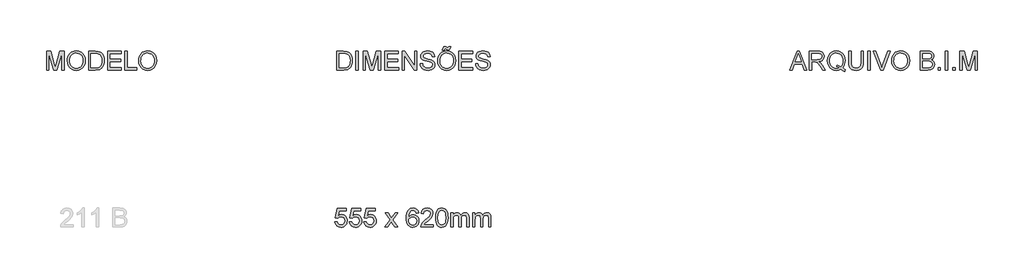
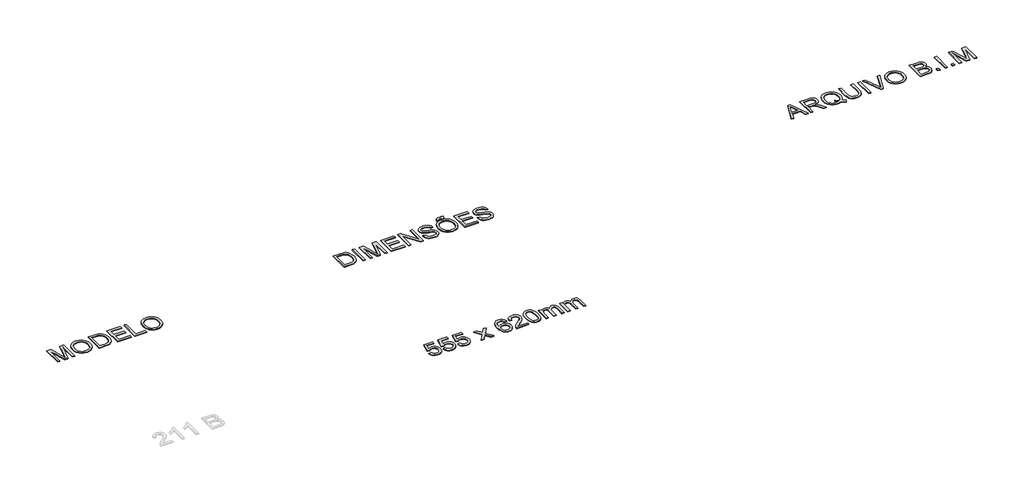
# One storey, part 33 of 35: 4 proxies.
"""IFC4 building model written with IfcOpenShell, lengths in millimetres."""

from ifc_helpers import new_model, si_unit, origin, origin_with_axes, place, context, project, spatial, polyline, outline, extrude, element, save

model = new_model("IFC4")

# Units and contexts
model_context = context("Model", 3, world=origin())
ifc_project = project(units=[si_unit("LENGTHUNIT", "METRE", prefix="MILLI")], contexts=[model_context])

# Site, building, storey
site = spatial("IfcSite", under=ifc_project)
building = spatial("IfcBuilding", under=site)
storey = spatial("IfcBuildingStorey", under=building, Name="Marelli - Linha YOU - Planta Baixa", Elevation=0.0)

# Proxies
placement = place(None, origin())
element("IfcBuildingElementProxy", 1, Name="300mm Arial", ObjectType="300mm Arial", at=placement, inside=storey, context=model_context, shape_type="SweptSolid", body=[
    extrude(outline(polyline([(-25315.334731, 13719.4336799), (-25315.334731, 14020.8026104), (-25211.3712792, 14020.8026104), (-25157.5869315, 14016.4616028), (-25133.5642372, 14008.0922874), (-25113.2939393, 13994.9037179), (-25092.4534243, 13971.9478814), (-25077.6093858, 13943.4002386), (-25068.7250356, 13909.8126124), (-25065.7635855, 13871.7368259), (-25067.7685424, 13839.3908015), (-25073.783413, 13810.9259321), (-25082.9436747, 13786.6917057), (-25094.3848047, 13767.0376101), (-25107.5549802, 13751.522187), (-25121.902378, 13739.7039779), (-25138.3742943, 13730.9391893), (-25157.9180253, 13724.5840279), (-25206.3680841, 13719.4336799), (-25315.334731, 13719.4336799)]), holes=[polyline([(-25277.6636147, 13757.1047962), (-25211.0033972, 13757.1047962), (-25183.4306417, 13758.4659596), (-25162.5165502, 13762.5494498), (-25146.7344127, 13769.1161434), (-25134.5575186, 13777.9269172), (-25121.4701166, 13794.2332866), (-25111.6384703, 13815.3405161), (-25105.4856439, 13841.3405761), (-25103.4347018, 13872.3254371), (-25107.4538126, 13913.3810678), (-25119.511145, 13943.6945442), (-25137.3258306, 13964.5166651), (-25158.6170011, 13977.0982294), (-25180.2852506, 13981.6231779), (-25212.0334668, 13983.1314941), (-25277.6636147, 13983.1314941), (-25277.6636147, 13757.1047962)])]), origin_with_axes(), (0.0, 0.0, 1.0), 10.0),
    extrude(outline(polyline([(-25009.2569111, 13719.4336799), (-25009.2569111, 14020.8026104), (-24971.5857948, 14020.8026104), (-24971.5857948, 13719.4336799), (-25009.2569111, 13719.4336799)])), origin_with_axes(), (0.0, 0.0, 1.0), 10.0),
    extrude(outline(polyline([(-24896.2435621, 13719.4336799), (-24896.2435621, 14020.8026104), (-24831.4227546, 14020.8026104), (-24769.7657322, 13808.3875464), (-24757.3313208, 13764.0209777), (-24743.8668397, 13812.0663663), (-24683.2398869, 14020.8026104), (-24618.4190794, 14020.8026104), (-24618.4190794, 13719.4336799), (-24656.0901957, 13719.4336799), (-24656.0901957, 13983.1314941), (-24731.8003103, 13719.4336799), (-24782.8623312, 13719.4336799), (-24858.5724458, 13983.1314941), (-24858.5724458, 13719.4336799), (-24896.2435621, 13719.4336799)])), origin_with_axes(), (0.0, 0.0, 1.0), 10.0),
    extrude(outline(polyline([(-24552.4946258, 13719.4336799), (-24552.4946258, 14020.8026104), (-24335.8857071, 14020.8026104), (-24335.8857071, 13983.1314941), (-24514.8235095, 13983.1314941), (-24514.8235095, 13893.6625928), (-24345.3034862, 13893.6625928), (-24345.3034862, 13855.9914765), (-24514.8235095, 13855.9914765), (-24514.8235095, 13757.1047962), (-24331.1768175, 13757.1047962), (-24331.1768175, 13719.4336799), (-24552.4946258, 13719.4336799)])), origin_with_axes(), (0.0, 0.0, 1.0), 10.0),
    extrude(outline(polyline([(-24274.6701431, 13719.4336799), (-24274.6701431, 14020.8026104), (-24234.3502764, 14020.8026104), (-24076.8967825, 13782.0471955), (-24076.8967825, 14020.8026104), (-24039.2256662, 14020.8026104), (-24039.2256662, 13719.4336799), (-24079.5455328, 13719.4336799), (-24236.9990268, 13958.2626712), (-24236.9990268, 13719.4336799), (-24274.6701431, 13719.4336799)])), origin_with_axes(), (0.0, 0.0, 1.0), 10.0),
    extrude(outline(polyline([(-23987.4278813, 13823.0292498), (-23949.7567649, 13823.0292498), (-23945.4341515, 13802.1243554), (-23937.6166591, 13785.3213453), (-23925.421371, 13771.9856229), (-23907.9653703, 13761.482592), (-23886.6282146, 13754.667578), (-23862.7894613, 13752.3959067), (-23841.8017935, 13754.115755), (-23823.4260878, 13759.2753), (-23808.536064, 13767.4422803), (-23798.0054419, 13778.1844346), (-23791.742251, 13790.5176784), (-23789.6545206, 13803.4579276), (-23791.2180191, 13816.067083), (-23795.9085146, 13826.9655871), (-23805.4366582, 13836.2638046), (-23821.5131014, 13844.0720999), (-23876.3643069, 13858.4562859), (-23912.3707572, 13867.9752325), (-23935.4093671, 13877.0343267), (-23954.1621518, 13889.7078614), (-23967.4518889, 13905.0669347), (-23975.3705489, 13922.7804528), (-23978.0101022, 13942.5173218), (-23974.7451495, 13964.5810445), (-23964.9502913, 13985.154845), (-23948.8830452, 14002.5924516), (-23926.8009284, 14015.2475923), (-23900.2950307, 14022.945523), (-23870.9564416, 14025.5114999), (-23839.1714372, 14022.8259614), (-23811.3595584, 14014.7693457), (-23788.5140865, 14001.5071997), (-23771.6283029, 13983.2050705), (-23760.9413309, 13961.0033921), (-23756.6922939, 13936.0425987), (-23794.3634102, 13936.0425987), (-23801.2795917, 13958.5201886), (-23815.7005659, 13974.7437846), (-23838.2333381, 13984.5662339), (-23869.4849136, 13987.8403836), (-23901.4722531, 13984.6030221), (-23923.4164141, 13974.8909374), (-23936.1083429, 13960.5987219), (-23940.3389859, 13943.6209678), (-23937.3407476, 13929.1448113), (-23928.3460328, 13917.5013461), (-23907.0824535, 13907.0902857), (-23866.8361632, 13896.458496), (-23825.302286, 13886.3601352), (-23800.1759457, 13877.5493615), (-23778.7008342, 13863.8825453), (-23763.71884, 13847.0151559), (-23754.9172633, 13827.131134), (-23751.9834043, 13804.4144208), (-23755.3587216, 13781.1918699), (-23765.4846736, 13759.3488764), (-23781.9473928, 13740.5501065), (-23804.3330123, 13726.460226), (-23831.2527773, 13717.6586493), (-23861.3179333, 13714.7247904), (-23898.2256945, 13717.8885756), (-23928.6035502, 13727.379931), (-23952.8009885, 13743.235645), (-23971.1674971, 13765.4925057), (-23982.958115, 13792.6054088), (-23987.4278813, 13823.0292498)])), origin_with_axes(), (0.0, 0.0, 1.0), 10.0),
    extrude(outline(polyline([(-23709.6033985, 13866.1450196), (-23707.0926039, 13901.4938808), (-23699.56022, 13932.786843), (-23687.0062469, 13960.0239063), (-23669.4306846, 13983.2050705), (-23647.8865953, 14001.7141334), (-23623.4270411, 14014.9348926), (-23596.0520222, 14022.8673481), (-23565.7615384, 14025.5114999), (-23526.232618, 14020.545093), (-23490.7871878, 14005.6458722), (-23461.3566282, 13981.8623012), (-23439.8723196, 13950.2428437), (-23426.7389324, 13912.31421), (-23422.3611367, 13869.6031104), (-23426.9688587, 13826.3217936), (-23440.7920246, 13787.859731), (-23463.0672794, 13756.1850913), (-23493.0312679, 13733.266043), (-23528.1731955, 13719.3601035), (-23565.9822676, 13714.7247904), (-23606.1181933, 13719.8475472), (-23641.7659586, 13735.2158175), (-23671.1229418, 13759.4408469), (-23692.3865211, 13791.1338808), (-23705.2991792, 13827.6001836), (-23709.6033985, 13866.1450196)]), holes=[polyline([(-23671.9322822, 13865.7771376), (-23670.0491862, 13840.8025487), (-23664.3998983, 13818.6330599), (-23654.9844185, 13799.2686714), (-23641.8027468, 13782.7093831), (-23625.7791866, 13769.4472372), (-23607.8380416, 13759.9742758), (-23587.9793116, 13754.290499), (-23566.2029968, 13752.3959067), (-23544.0542014, 13754.3088931), (-23523.9609467, 13760.0478522), (-23505.9232326, 13769.6127841), (-23489.9410592, 13783.0036887), (-23476.8559565, 13799.9124649), (-23467.5094545, 13820.0310115), (-23461.9015534, 13843.3593285), (-23460.032253, 13869.897416), (-23463.2328263, 13903.2459188), (-23472.8345464, 13932.0694731), (-23488.5890928, 13955.641512), (-23510.2481453, 13973.2354684), (-23536.376964, 13984.1891548), (-23565.5408092, 13987.8403836), (-23586.5606667, 13986.0814478), (-23606.063011, 13980.8046405), (-23624.047842, 13972.0099615), (-23640.5151598, 13959.697411), (-23654.2601508, 13943.2737792), (-23664.0780016, 13922.1458563), (-23669.968712, 13896.3136425), (-23671.9322822, 13865.7771376)])]), origin_with_axes(), (0.0, 0.0, 1.0), 10.0),
    extrude(outline(polyline([(-23634.2611659, 14039.6381685), (-23631.4100804, 14062.7963401), (-23622.5625184, 14080.7673756), (-23609.2267961, 14092.3004761), (-23592.616924, 14096.144843), (-23578.7109846, 14093.1098165), (-23562.4506004, 14084.0047372), (-23547.2202858, 14077.3092848), (-23539.2372465, 14081.0984694), (-23535.3744856, 14096.144843), (-23502.4122588, 14096.144843), (-23505.6956056, 14071.4231729), (-23514.3684237, 14053.7648371), (-23527.2718846, 14043.1698357), (-23543.2471603, 14039.6381685), (-23557.2450702, 14042.5076481), (-23573.0456019, 14051.1160868), (-23588.9381041, 14058.4737267), (-23597.9144248, 14053.6912607), (-23601.2989391, 14039.6381685), (-23634.2611659, 14039.6381685)])), origin_with_axes(), (0.0, 0.0, 1.0), 10.0),
    extrude(outline(polyline([(-23370.5633517, 13719.4336799), (-23370.5633517, 14020.8026104), (-23153.954433, 14020.8026104), (-23153.954433, 13983.1314941), (-23332.8922354, 13983.1314941), (-23332.8922354, 13893.6625928), (-23163.3722121, 13893.6625928), (-23163.3722121, 13855.9914765), (-23332.8922354, 13855.9914765), (-23332.8922354, 13757.1047962), (-23149.2455434, 13757.1047962), (-23149.2455434, 13719.4336799), (-23370.5633517, 13719.4336799)])), origin_with_axes(), (0.0, 0.0, 1.0), 10.0),
    extrude(outline(polyline([(-23106.8655376, 13823.0292498), (-23069.1944213, 13823.0292498), (-23064.8718078, 13802.1243554), (-23057.0543155, 13785.3213453), (-23044.8590273, 13771.9856229), (-23027.4030266, 13761.482592), (-23006.0658709, 13754.667578), (-22982.2271176, 13752.3959067), (-22961.2394498, 13754.115755), (-22942.8637441, 13759.2753), (-22927.9737204, 13767.4422803), (-22917.4430983, 13778.1844346), (-22911.1799073, 13790.5176784), (-22909.092177, 13803.4579276), (-22910.6556755, 13816.067083), (-22915.3461709, 13826.9655871), (-22924.8743146, 13836.2638046), (-22940.9507578, 13844.0720999), (-22995.8019633, 13858.4562859), (-23031.8084135, 13867.9752325), (-23054.8470235, 13877.0343267), (-23073.5998082, 13889.7078614), (-23086.8895453, 13905.0669347), (-23094.8082052, 13922.7804528), (-23097.4477585, 13942.5173218), (-23094.1828058, 13964.5810445), (-23084.3879477, 13985.154845), (-23068.3207016, 14002.5924516), (-23046.2385848, 14015.2475923), (-23019.732687, 14022.945523), (-22990.3940979, 14025.5114999), (-22958.6090935, 14022.8259614), (-22930.7972147, 14014.7693457), (-22907.9517428, 14001.5071997), (-22891.0659592, 13983.2050705), (-22880.3789873, 13961.0033921), (-22876.1299502, 13936.0425987), (-22913.8010665, 13936.0425987), (-22920.717248, 13958.5201886), (-22935.1382223, 13974.7437846), (-22957.6709945, 13984.5662339), (-22988.9225699, 13987.8403836), (-23020.9099094, 13984.6030221), (-23042.8540704, 13974.8909374), (-23055.5459993, 13960.5987219), (-23059.7766422, 13943.6209678), (-23056.778404, 13929.1448113), (-23047.7836892, 13917.5013461), (-23026.5201099, 13907.0902857), (-22986.2738196, 13896.458496), (-22944.7399423, 13886.3601352), (-22919.6136021, 13877.5493615), (-22898.1384906, 13863.8825453), (-22883.1564963, 13847.0151559), (-22874.3549196, 13827.131134), (-22871.4210607, 13804.4144208), (-22874.796378, 13781.1918699), (-22884.9223299, 13759.3488764), (-22901.3850492, 13740.5501065), (-22923.7706686, 13726.460226), (-22950.6904336, 13717.6586493), (-22980.7555897, 13714.7247904), (-23017.6633508, 13717.8885756), (-23048.0412066, 13727.379931), (-23072.2386448, 13743.235645), (-23090.6051534, 13765.4925057), (-23102.3957714, 13792.6054088), (-23106.8655376, 13823.0292498)])), origin_with_axes(), (0.0, 0.0, 1.0), 10.0),
])
element("IfcBuildingElementProxy", 2, Name="300mm Arial", ObjectType="300mm Arial", at=placement, inside=storey, context=model_context, shape_type="SweptSolid", body=[
    extrude(outline(polyline([(-18109.419598, 13719.4336799), (-17989.1221856, 14020.8026104), (-17957.0428756, 14020.8026104), (-17836.7454632, 13719.4336799), (-17876.550295, 13719.4336799), (-17911.0576262, 13813.6114707), (-18035.1810114, 13813.6114707), (-18069.6147661, 13719.4336799), (-18109.419598, 13719.4336799)]), holes=[polyline([(-18021.3486483, 13851.282587), (-17924.8164128, 13851.282587), (-17951.9661041, 13925.3740208), (-17973.0825306, 13983.1314941), (-17991.8445123, 13931.8487439), (-18021.3486483, 13851.282587)])]), origin_with_axes(), (0.0, 0.0, 1.0), 10.0),
    extrude(outline(polyline([(-17796.4991729, 13719.4336799), (-17796.4991729, 14020.8026104), (-17666.6368286, 14020.8026104), (-17631.7340243, 14018.7700624), (-17606.3409696, 14012.6724183), (-17587.7813229, 14001.4152292), (-17573.3787428, 13983.9040463), (-17564.1357077, 13962.1898115), (-17561.054696, 13938.3234671), (-17566.1590587, 13908.6353901), (-17581.4721467, 13884.0240846), (-17593.0719259, 13873.9947017), (-17607.4538126, 13865.9794727), (-17644.5639089, 13855.9914765), (-17623.1531768, 13839.8782452), (-17592.6189712, 13801.1034829), (-17542.3662906, 13719.4336799), (-17586.144248, 13719.4336799), (-17625.3604687, 13781.9000427), (-17653.6873824, 13823.249979), (-17673.5897983, 13842.7845129), (-17691.5056515, 13849.9582118), (-17713.357842, 13851.282587), (-17758.8280566, 13851.282587), (-17758.8280566, 13719.4336799), (-17796.4991729, 13719.4336799)]), holes=[polyline([(-17758.8280566, 13888.9537033), (-17674.5095033, 13888.9537033), (-17650.293671, 13890.2872755), (-17631.5040981, 13894.2879922), (-17617.3590353, 13901.2225678), (-17607.0767336, 13911.3577168), (-17600.8135426, 13923.6173843), (-17598.7258123, 13936.9255155), (-17602.7081349, 13955.3012211), (-17614.6551027, 13970.1084714), (-17635.2105092, 13979.8757384), (-17665.0181478, 13983.1314941), (-17758.8280566, 13983.1314941), (-17758.8280566, 13888.9537033)])]), origin_with_axes(), (0.0, 0.0, 1.0), 10.0),
    extrude(outline(polyline([(-17268.7356626, 13755.5596919), (-17244.4002686, 13736.963257), (-17222.0146492, 13724.1425695), (-17232.1681923, 13696.5514198), (-17263.2358268, 13710.9539999), (-17294.1930967, 13731.794515), (-17329.0499157, 13718.9922215), (-17367.4016137, 13714.7247904), (-17405.9372527, 13719.6452121), (-17440.7572836, 13734.4064771), (-17469.9211287, 13758.0796835), (-17491.4882107, 13789.7359292), (-17504.814736, 13827.6369718), (-17509.2569111, 13870.0445688), (-17504.823933, 13912.488954), (-17491.5249989, 13950.9418195), (-17470.0406904, 13983.0487206), (-17441.0515892, 14006.4552126), (-17406.360317, 14020.7474281), (-17367.7694957, 14025.5114999), (-17328.8751718, 14020.6370635), (-17294.0091557, 14006.0137542), (-17265.0660397, 13982.6164593), (-17243.9404161, 13951.4200661), (-17231.0277581, 13914.0800436), (-17226.7235388, 13872.2518607), (-17229.3355009, 13837.4686181), (-17237.1713874, 13806.4009836), (-17250.2863806, 13779.0857454), (-17268.7356626, 13755.5596919)]), holes=[polyline([(-17357.0273415, 13805.6652196), (-17325.3527017, 13793.6906607), (-17299.784903, 13777.0440004), (-17284.3016695, 13794.5183951), (-17273.2422171, 13815.8923391), (-17266.6065456, 13841.1658321), (-17264.3946551, 13870.3388744), (-17267.521652, 13903.4942392), (-17276.9026429, 13932.1798377), (-17292.3077015, 13955.6691031), (-17313.5069014, 13973.2354684), (-17339.065503, 13984.1891548), (-17367.5487665, 13987.8403836), (-17389.033075, 13985.9940758), (-17408.6043972, 13980.4551526), (-17426.2627329, 13971.2236137), (-17442.0080823, 13958.2994594), (-17454.9483315, 13941.7102807), (-17464.1913666, 13921.4836687), (-17469.7371877, 13897.6196236), (-17471.5857948, 13870.1181452), (-17469.7578811, 13843.3340366), (-17464.2741401, 13819.8562676), (-17455.1345718, 13799.6848379), (-17442.3391761, 13782.8197477), (-17426.7018921, 13769.5093173), (-17409.0366585, 13760.001867), (-17389.3434755, 13754.2973968), (-17367.6223429, 13752.3959067), (-17346.7082515, 13754.3272872), (-17327.081747, 13760.1214286), (-17346.3771577, 13770.146213), (-17366.7394261, 13776.8232712), (-17357.0273415, 13805.6652196)])]), origin_with_axes(), (0.0, 0.0, 1.0), 10.0),
    extrude(outline(polyline([(-16972.4435037, 14020.8026104), (-16934.7723874, 14020.8026104), (-16934.7723874, 13846.9415795), (-16937.3291673, 13806.2262396), (-16944.9995069, 13774.8734966), (-16959.3285106, 13750.6852554), (-16981.8612828, 13731.4634212), (-17012.6530058, 13718.9094481), (-17051.7588619, 13714.7247904), (-17090.0093923, 13718.3668221), (-17120.5895832, 13729.2929174), (-17143.5086315, 13747.1259971), (-17158.7757343, 13771.4889822), (-17167.3565818, 13804.1661005), (-17170.2168643, 13846.9415795), (-17170.2168643, 14020.8026104), (-17132.545748, 14020.8026104), (-17132.545748, 13848.2659546), (-17130.6879439, 13814.411614), (-17125.1145317, 13790.8395752), (-17115.0161709, 13774.5148117), (-17099.5835212, 13762.402297), (-17079.4603761, 13754.8975043), (-17055.290529, 13752.3959067), (-17016.9756192, 13757.3439195), (-17002.6328199, 13763.5289356), (-16991.499791, 13772.187958), (-16983.1626653, 13784.3648521), (-16977.2075755, 13801.1034829), (-16972.4435037, 13848.2659546), (-16972.4435037, 14020.8026104)])), origin_with_axes(), (0.0, 0.0, 1.0), 10.0),
    extrude(outline(polyline([(-16864.1390443, 13719.4336799), (-16864.1390443, 14020.8026104), (-16826.467928, 14020.8026104), (-16826.467928, 13719.4336799), (-16864.1390443, 13719.4336799)])), origin_with_axes(), (0.0, 0.0, 1.0), 10.0),
    extrude(outline(polyline([(-16662.0982526, 13719.4336799), (-16782.027783, 14020.8026104), (-16741.7079163, 14020.8026104), (-16661.436065, 13803.6786568), (-16645.1756808, 13754.7503515), (-16629.1360258, 13803.6786568), (-16548.6434453, 14020.8026104), (-16508.3235786, 14020.8026104), (-16623.1763375, 13719.4336799), (-16662.0982526, 13719.4336799)])), origin_with_axes(), (0.0, 0.0, 1.0), 10.0),
    extrude(outline(polyline([(-16487.4278813, 13866.1450196), (-16484.9170866, 13901.4938808), (-16477.3847028, 13932.786843), (-16464.8307297, 13960.0239063), (-16447.2551674, 13983.2050705), (-16425.711078, 14001.7141334), (-16401.2515239, 14014.9348926), (-16373.8765049, 14022.8673481), (-16343.5860211, 14025.5114999), (-16304.0571008, 14020.545093), (-16268.6116705, 14005.6458722), (-16239.1811109, 13981.8623012), (-16217.6968024, 13950.2428437), (-16204.5634152, 13912.31421), (-16200.1856194, 13869.6031104), (-16204.7933414, 13826.3217936), (-16218.6165074, 13787.859731), (-16240.8917622, 13756.1850913), (-16270.8557507, 13733.266043), (-16305.9976783, 13719.3601035), (-16343.8067503, 13714.7247904), (-16383.942676, 13719.8475472), (-16419.5904413, 13735.2158175), (-16448.9474246, 13759.4408469), (-16470.2110039, 13791.1338808), (-16483.1236619, 13827.6001836), (-16487.4278813, 13866.1450196)]), holes=[polyline([(-16449.7567649, 13865.7771376), (-16447.873669, 13840.8025487), (-16442.2243811, 13818.6330599), (-16432.8089013, 13799.2686714), (-16419.6272295, 13782.7093831), (-16403.6036694, 13769.4472372), (-16385.6625243, 13759.9742758), (-16365.8037944, 13754.290499), (-16344.0274795, 13752.3959067), (-16321.8786842, 13754.3088931), (-16301.7854294, 13760.0478522), (-16283.7477154, 13769.6127841), (-16267.7655419, 13783.0036887), (-16254.6804392, 13799.9124649), (-16245.3339373, 13820.0310115), (-16239.7260361, 13843.3593285), (-16237.8567357, 13869.897416), (-16241.0573091, 13903.2459188), (-16250.6590292, 13932.0694731), (-16266.4135756, 13955.641512), (-16288.0726281, 13973.2354684), (-16314.2014468, 13984.1891548), (-16343.3652919, 13987.8403836), (-16364.3851494, 13986.0814478), (-16383.8874937, 13980.8046405), (-16401.8723248, 13972.0099615), (-16418.3396426, 13959.697411), (-16432.0846336, 13943.2737792), (-16441.9024844, 13922.1458563), (-16447.7931948, 13896.3136425), (-16449.7567649, 13865.7771376)])]), origin_with_axes(), (0.0, 0.0, 1.0), 10.0),
    extrude(outline(polyline([(-16030.665596, 13719.4336799), (-16030.665596, 14020.8026104), (-15915.6656844, 14020.8026104), (-15884.0370298, 14018.5861214), (-15859.3429509, 14011.9366543), (-15840.4154222, 14000.6886623), (-15826.0864185, 13984.6765985), (-15817.0641126, 13965.8410403), (-15814.0566773, 13946.1225654), (-15816.585866, 13927.9767859), (-15824.1734321, 13910.9162584), (-15836.874558, 13895.9894465), (-15854.7444259, 13884.2448138), (-15833.3980732, 13873.0979893), (-15817.6251326, 13856.1386293), (-15807.8854568, 13834.4887739), (-15804.6388982, 13809.2704632), (-15806.8553872, 13788.2552042), (-15813.5048543, 13768.7666555), (-15823.4284711, 13752.1935716), (-15835.4674094, 13739.9247071), (-15850.2102804, 13731.0403569), (-15868.2456952, 13724.6208161), (-15916.5486011, 13719.4336799), (-16030.665596, 13719.4336799)]), holes=[polyline([(-15992.9944797, 13898.3714824), (-15924.2005466, 13898.3714824), (-15884.0278328, 13901.6088439), (-15869.9655435, 13907.1914532), (-15859.8579857, 13915.5515716), (-15853.7603416, 13926.5604403), (-15851.7277936, 13940.0893006), (-15853.6223859, 13953.2226879), (-15859.3061627, 13964.6638179), (-15868.5216067, 13973.5941533), (-15881.0112004, 13979.1951567), (-15929.424471, 13983.1314941), (-15992.9944797, 13983.1314941), (-15992.9944797, 13898.3714824)]), polyline([(-15992.9944797, 13757.1047962), (-15915.7392607, 13757.1047962), (-15887.7802291, 13758.5763242), (-15864.1254168, 13766.7800927), (-15848.4536438, 13783.5187235), (-15843.8459218, 13795.3461296), (-15842.3100145, 13808.9025812), (-15844.1126363, 13824.6479306), (-15849.5205016, 13838.185988), (-15858.9658718, 13848.7717924), (-15872.8810083, 13855.6603827), (-15892.5902862, 13859.4403702), (-15919.4180807, 13860.7003661), (-15992.9944797, 13860.7003661), (-15992.9944797, 13757.1047962)])]), origin_with_axes(), (0.0, 0.0, 1.0), 10.0),
    extrude(outline(polyline([(-15748.1322237, 13719.4336799), (-15748.1322237, 13757.1047962), (-15710.4611074, 13757.1047962), (-15710.4611074, 13719.4336799), (-15748.1322237, 13719.4336799)])), origin_with_axes(), (0.0, 0.0, 1.0), 10.0),
    extrude(outline(polyline([(-15630.4099853, 13719.4336799), (-15630.4099853, 14020.8026104), (-15592.738869, 14020.8026104), (-15592.738869, 13719.4336799), (-15630.4099853, 13719.4336799)])), origin_with_axes(), (0.0, 0.0, 1.0), 10.0),
    extrude(outline(polyline([(-15512.6877468, 13719.4336799), (-15512.6877468, 13757.1047962), (-15475.0166305, 13757.1047962), (-15475.0166305, 13719.4336799), (-15512.6877468, 13719.4336799)])), origin_with_axes(), (0.0, 0.0, 1.0), 10.0),
    extrude(outline(polyline([(-15399.6743979, 13719.4336799), (-15399.6743979, 14020.8026104), (-15334.8535904, 14020.8026104), (-15273.196568, 13808.3875464), (-15260.7621565, 13764.0209777), (-15247.2976755, 13812.0663663), (-15186.6707227, 14020.8026104), (-15121.8499152, 14020.8026104), (-15121.8499152, 13719.4336799), (-15159.5210315, 13719.4336799), (-15159.5210315, 13983.1314941), (-15235.2311461, 13719.4336799), (-15286.293167, 13719.4336799), (-15362.0032816, 13983.1314941), (-15362.0032816, 13719.4336799), (-15399.6743979, 13719.4336799)])), origin_with_axes(), (0.0, 0.0, 1.0), 10.0),
])
element("IfcBuildingElementProxy", 3, Name="300mm Arial", ObjectType="300mm Arial", at=placement, inside=storey, context=model_context, shape_type="SweptSolid", body=[
    extrude(outline(polyline([(-25343.5880683, 11299.4848021), (-25305.916952, 11304.1936916), (-25299.0007705, 11281.578146), (-25286.934241, 11265.3821411), (-25269.7725459, 11255.6424653), (-25247.5708675, 11252.3959067), (-25220.5683291, 11256.9116582), (-25200.3348194, 11270.4589127), (-25187.6980728, 11291.4741716), (-25183.485824, 11318.3939366), (-25187.4313584, 11343.7410061), (-25199.2679616, 11363.1283872), (-25219.0876041, 11375.43404), (-25246.9822563, 11379.5359242), (-25265.2567945, 11377.8988494), (-25280.0548477, 11372.9876247), (-25301.2080624, 11355.9914765), (-25338.8791787, 11360.7003661), (-25305.916952, 11516.0937208), (-25159.9413763, 11516.0937208), (-25159.9413763, 11478.4226045), (-25275.4563228, 11478.4226045), (-25291.5695542, 11395.4284264), (-25264.6589862, 11411.762387), (-25236.4608313, 11417.2070405), (-25218.115016, 11415.5193819), (-25201.2637214, 11410.4564059), (-25185.9069474, 11402.0181127), (-25172.0446939, 11390.2045021), (-25160.5690749, 11375.7375426), (-25152.3722042, 11359.3392027), (-25147.4540818, 11341.0094823), (-25145.8147077, 11320.7483814), (-25151.7192137, 11283.0772651), (-25159.0998462, 11266.283452), (-25169.4327318, 11250.8508023), (-25185.0861107, 11235.0456721), (-25203.3514517, 11223.7562934), (-25224.2287549, 11216.9826661), (-25247.7180203, 11214.7247904), (-25284.717752, 11220.5281289), (-25300.3964228, 11227.782302), (-25314.1942969, 11237.9381443), (-25325.6745144, 11250.4898181), (-25334.4002154, 11264.9314857), (-25343.5880683, 11299.4848021)])), origin_with_axes(), (0.0, 0.0, 1.0), 10.0),
    extrude(outline(polyline([(-25112.8524809, 11299.4848021), (-25075.1813646, 11304.1936916), (-25068.2651831, 11281.578146), (-25056.1986536, 11265.3821411), (-25039.0369586, 11255.6424653), (-25016.8352802, 11252.3959067), (-24989.8327417, 11256.9116582), (-24969.599232, 11270.4589127), (-24956.9624854, 11291.4741716), (-24952.7502366, 11318.3939366), (-24956.695771, 11343.7410061), (-24968.5323742, 11363.1283872), (-24988.3520167, 11375.43404), (-25016.246669, 11379.5359242), (-25034.5212071, 11377.8988494), (-25049.3192603, 11372.9876247), (-25070.4724751, 11355.9914765), (-25108.1435914, 11360.7003661), (-25075.1813646, 11516.0937208), (-24929.2057889, 11516.0937208), (-24929.2057889, 11478.4226045), (-25044.7207354, 11478.4226045), (-25060.8339668, 11395.4284264), (-25033.9233988, 11411.762387), (-25005.7252439, 11417.2070405), (-24987.3794287, 11415.5193819), (-24970.528134, 11410.4564059), (-24955.17136, 11402.0181127), (-24941.3091065, 11390.2045021), (-24929.8334876, 11375.7375426), (-24921.6366169, 11359.3392027), (-24916.7184944, 11341.0094823), (-24915.0791203, 11320.7483814), (-24920.9836263, 11283.0772651), (-24928.3642588, 11266.283452), (-24938.6971444, 11250.8508023), (-24954.3505233, 11235.0456721), (-24972.6158643, 11223.7562934), (-24993.4931676, 11216.9826661), (-25016.982433, 11214.7247904), (-25053.9821646, 11220.5281289), (-25069.6608354, 11227.782302), (-25083.4587095, 11237.9381443), (-25094.938927, 11250.4898181), (-25103.6646281, 11264.9314857), (-25112.8524809, 11299.4848021)])), origin_with_axes(), (0.0, 0.0, 1.0), 10.0),
    extrude(outline(polyline([(-24882.1168935, 11299.4848021), (-24844.4457772, 11304.1936916), (-24837.5295957, 11281.578146), (-24825.4630663, 11265.3821411), (-24808.3013712, 11255.6424653), (-24786.0996928, 11252.3959067), (-24759.0971543, 11256.9116582), (-24738.8636446, 11270.4589127), (-24726.2268981, 11291.4741716), (-24722.0146492, 11318.3939366), (-24725.9601836, 11343.7410061), (-24737.7967868, 11363.1283872), (-24757.6164293, 11375.43404), (-24785.5110816, 11379.5359242), (-24803.7856197, 11377.8988494), (-24818.583673, 11372.9876247), (-24839.7368877, 11355.9914765), (-24877.408004, 11360.7003661), (-24844.4457772, 11516.0937208), (-24698.4702015, 11516.0937208), (-24698.4702015, 11478.4226045), (-24813.985148, 11478.4226045), (-24830.0983794, 11395.4284264), (-24803.1878115, 11411.762387), (-24774.9896565, 11417.2070405), (-24756.6438413, 11415.5193819), (-24739.7925466, 11410.4564059), (-24724.4357726, 11402.0181127), (-24710.5735192, 11390.2045021), (-24699.0979002, 11375.7375426), (-24690.9010295, 11359.3392027), (-24685.9829071, 11341.0094823), (-24684.3435329, 11320.7483814), (-24690.2480389, 11283.0772651), (-24697.6286715, 11266.283452), (-24707.961557, 11250.8508023), (-24723.6149359, 11235.0456721), (-24741.880277, 11223.7562934), (-24762.7575802, 11216.9826661), (-24786.2468456, 11214.7247904), (-24823.2465772, 11220.5281289), (-24838.925248, 11227.782302), (-24852.7231221, 11237.9381443), (-24864.2033396, 11250.4898181), (-24872.9290407, 11264.9314857), (-24882.1168935, 11299.4848021)])), origin_with_axes(), (0.0, 0.0, 1.0), 10.0),
    extrude(outline(polyline([(-24547.7857363, 11219.4336799), (-24467.2931558, 11330.6811953), (-24543.0768468, 11440.7514882), (-24497.753785, 11440.7514882), (-24461.1863146, 11387.7764809), (-24444.1165901, 11362.7605053), (-24429.3277339, 11383.2147442), (-24387.683492, 11440.7514882), (-24342.3604302, 11440.7514882), (-24421.970094, 11330.6811953), (-24345.3034862, 11219.4336799), (-24390.626548, 11219.4336799), (-24436.7589502, 11286.3146267), (-24445.2202361, 11298.5283089), (-24502.4626745, 11219.4336799), (-24547.7857363, 11219.4336799)])), origin_with_axes(), (0.0, 0.0, 1.0), 10.0),
    extrude(outline(polyline([(-24010.9723289, 11440.7514882), (-24048.6434453, 11436.0425987), (-24054.7134982, 11454.7126099), (-24062.9172667, 11467.4597211), (-24080.0053853, 11479.2135508), (-24100.6619594, 11483.1314941), (-24118.1731423, 11480.8506257), (-24134.6542557, 11474.0080206), (-24148.8085155, 11459.5962434), (-24160.3692072, 11439.7582068), (-24168.1775025, 11411.6980077), (-24171.0745732, 11372.6197427), (-24155.9638203, 11390.2504873), (-24137.8548291, 11402.6757017), (-24117.7592751, 11410.0425387), (-24096.6888338, 11412.498151), (-24078.5890397, 11410.8196894), (-24061.8871971, 11405.7843046), (-24046.5833061, 11397.3919966), (-24032.6773667, 11385.6427654), (-24021.1212735, 11371.2355867), (-24012.8669212, 11354.8694365), (-24007.9143099, 11336.5443146), (-24006.2634394, 11316.2602211), (-24009.3720423, 11289.2852738), (-24018.6978508, 11264.2784951), (-24033.468313, 11243.0700981), (-24052.9108764, 11227.4902956), (-24076.1426244, 11217.9161667), (-24102.2806401, 11214.7247904), (-24124.7375367, 11216.8401119), (-24145.0193309, 11223.1860763), (-24163.1260229, 11233.7626836), (-24179.0576125, 11248.5699339), (-24192.0461462, 11268.2332266), (-24201.3236703, 11293.377961), (-24206.8901847, 11324.0041371), (-24208.7456896, 11360.1117549), (-24206.6855504, 11400.5925699), (-24200.5051329, 11435.1412878), (-24190.204437, 11463.7579085), (-24175.7834628, 11486.442432), (-24160.1530765, 11501.4750101), (-24142.0302897, 11512.2125658), (-24121.4151024, 11518.6550992), (-24098.3075146, 11520.8026104), (-24065.2533173, 11515.4867156), (-24038.7842078, 11499.5390311), (-24020.2429552, 11474.2103557), (-24010.9723289, 11440.7514882)]), holes=[polyline([(-24171.0745732, 11316.8488323), (-24168.8948724, 11300.1561867), (-24162.35577, 11284.2176993), (-24152.2022269, 11270.514095), (-24139.1792043, 11260.5260988), (-24123.461446, 11254.4284547), (-24105.2236961, 11252.3959067), (-24080.3640703, 11256.6081555), (-24060.8203393, 11269.2449021), (-24048.1560016, 11289.1105298), (-24043.9345557, 11315.0094223), (-24048.1008193, 11339.8690481), (-24060.5996101, 11358.8241679), (-24080.4744349, 11370.826318), (-24106.7688005, 11374.8270347), (-24131.5916381, 11370.826318), (-24152.3493797, 11358.8241679), (-24166.3932749, 11340.3289006), (-24171.0745732, 11316.8488323)])]), origin_with_axes(), (0.0, 0.0, 1.0), 10.0),
    extrude(outline(polyline([(-23780.2367416, 11257.1047962), (-23780.2367416, 11219.4336799), (-23978.0101022, 11219.4336799), (-23973.9634002, 11245.4061488), (-23964.6743799, 11265.7040379), (-23951.0811401, 11285.3949217), (-23931.4178475, 11306.0055104), (-23903.9186683, 11329.0625145), (-23863.2677079, 11365.1701323), (-23838.8771316, 11391.8231829), (-23826.6818435, 11413.4546442), (-23822.6167474, 11434.4974943), (-23826.4519172, 11453.3606436), (-23837.9574266, 11469.0416137), (-23855.6433535, 11479.609024), (-23878.0197759, 11483.1314941), (-23901.5182383, 11479.6917974), (-23919.7743823, 11469.3727075), (-23931.5558032, 11452.9835646), (-23935.6300963, 11431.3337092), (-23973.3012126, 11436.0425987), (-23964.1685421, 11472.4813103), (-23955.6221835, 11487.0172476), (-23944.422476, 11499.0975727), (-23930.826937, 11508.5935267), (-23915.093084, 11515.376351), (-23877.2104355, 11520.8026104), (-23857.0206118, 11519.2942942), (-23839.0518755, 11514.7693457), (-23823.3042269, 11507.2277648), (-23809.7776658, 11496.6695515), (-23798.9136506, 11483.8764551), (-23791.1536398, 11469.6302249), (-23786.4976333, 11453.9308607), (-23784.9456311, 11436.7783627), (-23786.6194942, 11418.761342), (-23791.6410834, 11401.057021), (-23800.5530248, 11383.0491973), (-23813.8979441, 11364.1216686), (-23835.1707205, 11341.5245171), (-23867.8662328, 11312.5078247), (-23911.2027319, 11276.2714482), (-23928.19888, 11257.1047962), (-23780.2367416, 11257.1047962)])), origin_with_axes(), (0.0, 0.0, 1.0), 10.0),
    extrude(outline(polyline([(-23742.5656253, 11367.690124), (-23739.7973133, 11415.9286506), (-23731.4923772, 11454.3999103), (-23717.7335906, 11483.6925141), (-23698.6037268, 11504.3950734), (-23673.9648302, 11516.7007261), (-23643.678945, 11520.8026104), (-23620.4655911, 11518.3745892), (-23599.6802583, 11511.0905257), (-23582.2978341, 11499.2355284), (-23569.2932055, 11483.0947059), (-23559.4707563, 11462.8060138), (-23551.6348698, 11438.5074081), (-23546.5029159, 11407.6513057), (-23544.7922647, 11367.690124), (-23547.5329855, 11319.7275089), (-23555.7551481, 11281.3482197), (-23569.4311613, 11252.0280247), (-23588.5334339, 11231.242692), (-23613.2275128, 11218.8542658), (-23643.678945, 11214.7247904), (-23664.4274895, 11216.5182151), (-23682.8215892, 11221.8984893), (-23698.8612442, 11230.8656129), (-23712.5464545, 11243.419586), (-23725.6798417, 11266.1133066), (-23735.0608326, 11294.3896364), (-23740.6894271, 11328.2485756), (-23742.5656253, 11367.690124)]), holes=[polyline([(-23704.894509, 11367.7637004), (-23700.479925, 11308.507108), (-23694.9616951, 11288.2391093), (-23687.2361732, 11274.211309), (-23667.5176982, 11257.8497573), (-23643.678945, 11252.3959067), (-23619.8401917, 11257.8681514), (-23600.1217167, 11274.2848854), (-23592.3961948, 11288.3356784), (-23586.8779649, 11308.5990785), (-23582.463381, 11367.7637004), (-23586.7308121, 11425.6867205), (-23592.065101, 11445.8880406), (-23599.5331055, 11460.249234), (-23619.2147923, 11477.410929), (-23644.1204034, 11483.1314941), (-23667.7016392, 11478.0915107), (-23686.647562, 11462.9715607), (-23694.6306013, 11447.3365759), (-23700.3327722, 11426.2569376), (-23704.894509, 11367.7637004)])]), origin_with_axes(), (0.0, 0.0, 1.0), 10.0),
    extrude(outline(polyline([(-23502.4122588, 11219.4336799), (-23502.4122588, 11440.7514882), (-23464.7411425, 11440.7514882), (-23464.7411425, 11404.3311707), (-23453.4103771, 11421.0606044), (-23438.84225, 11434.1664005), (-23421.5334022, 11442.6368835), (-23401.9804741, 11445.4603778), (-23381.0295945, 11442.5817012), (-23364.2357814, 11433.9456713), (-23351.6910054, 11420.1225054), (-23343.4872369, 11401.6824203), (-23329.7560414, 11420.8352767), (-23314.0934655, 11434.5158884), (-23296.4995091, 11442.7242554), (-23276.9741722, 11445.4603778), (-23248.6564556, 11440.9078381), (-23227.714773, 11427.250219), (-23214.7745238, 11404.1196386), (-23210.4611074, 11371.1482147), (-23210.4611074, 11219.4336799), (-23248.1322237, 11219.4336799), (-23248.1322237, 11354.961407), (-23251.6271027, 11386.4153175), (-23256.5383273, 11395.0881356), (-23264.2822433, 11401.9031495), (-23274.2426484, 11406.3177335), (-23285.8033401, 11407.7892615), (-23306.2115937, 11404.018471), (-23322.849057, 11392.7060997), (-23333.913108, 11373.0795952), (-23337.601125, 11344.3664055), (-23337.601125, 11219.4336799), (-23375.2722413, 11219.4336799), (-23375.2722413, 11359.1552617), (-23377.4519421, 11380.4556292), (-23383.9910446, 11395.6491556), (-23395.496554, 11404.754235), (-23412.5754756, 11407.7892615), (-23427.0884203, 11405.7659105), (-23440.4609308, 11399.6958576), (-23451.4973907, 11389.7262555), (-23459.0021834, 11376.0042571), (-23463.3064027, 11356.9663638), (-23464.7411425, 11331.0490773), (-23464.7411425, 11219.4336799), (-23502.4122588, 11219.4336799)])), origin_with_axes(), (0.0, 0.0, 1.0), 10.0),
    extrude(outline(polyline([(-23153.954433, 11219.4336799), (-23153.954433, 11440.7514882), (-23116.2833167, 11440.7514882), (-23116.2833167, 11404.3311707), (-23104.9525512, 11421.0606044), (-23090.3844242, 11434.1664005), (-23073.0755763, 11442.6368835), (-23053.5226483, 11445.4603778), (-23032.5717687, 11442.5817012), (-23015.7779556, 11433.9456713), (-23003.2331796, 11420.1225054), (-22995.0294111, 11401.6824203), (-22981.2982156, 11420.8352767), (-22965.6356397, 11434.5158884), (-22948.0416832, 11442.7242554), (-22928.5163463, 11445.4603778), (-22900.1986298, 11440.9078381), (-22879.2569472, 11427.250219), (-22866.316698, 11404.1196386), (-22862.0032816, 11371.1482147), (-22862.0032816, 11219.4336799), (-22899.6743979, 11219.4336799), (-22899.6743979, 11354.961407), (-22903.1692769, 11386.4153175), (-22908.0805015, 11395.0881356), (-22915.8244175, 11401.9031495), (-22925.7848225, 11406.3177335), (-22937.3455142, 11407.7892615), (-22957.7537679, 11404.018471), (-22974.3912311, 11392.7060997), (-22985.4552821, 11373.0795952), (-22989.1432991, 11344.3664055), (-22989.1432991, 11219.4336799), (-23026.8144154, 11219.4336799), (-23026.8144154, 11359.1552617), (-23028.9941163, 11380.4556292), (-23035.5332187, 11395.6491556), (-23047.0387281, 11404.754235), (-23064.1176498, 11407.7892615), (-23078.6305945, 11405.7659105), (-23092.003105, 11399.6958576), (-23103.0395648, 11389.7262555), (-23110.5443576, 11376.0042571), (-23114.8485769, 11356.9663638), (-23116.2833167, 11331.0490773), (-23116.2833167, 11219.4336799), (-23153.954433, 11219.4336799)])), origin_with_axes(), (0.0, 0.0, 1.0), 10.0),
])
element("IfcBuildingElementProxy", 4, Name="300mm Arial", ObjectType="300mm Arial", at=placement, inside=storey, context=model_context, shape_type="SweptSolid", body=[
    extrude(outline(polyline([(-29931.5602337, 13719.4336799), (-29931.5602337, 14020.8026104), (-29866.7394261, 14020.8026104), (-29805.0824037, 13808.3875464), (-29792.6479923, 13764.0209777), (-29779.1835113, 13812.0663663), (-29718.5565585, 14020.8026104), (-29653.7357509, 14020.8026104), (-29653.7357509, 13719.4336799), (-29691.4068672, 13719.4336799), (-29691.4068672, 13983.1314941), (-29767.1169818, 13719.4336799), (-29818.1790028, 13719.4336799), (-29893.8891174, 13983.1314941), (-29893.8891174, 13719.4336799), (-29931.5602337, 13719.4336799)])), origin_with_axes(), (0.0, 0.0, 1.0), 10.0),
    extrude(outline(polyline([(-29601.937966, 13866.1450196), (-29599.4271714, 13901.4938808), (-29591.8947875, 13932.786843), (-29579.3408144, 13960.0239063), (-29561.7652521, 13983.2050705), (-29540.2211628, 14001.7141334), (-29515.7616086, 14014.9348926), (-29488.3865897, 14022.8673481), (-29458.0961059, 14025.5114999), (-29418.5671855, 14020.545093), (-29383.1217553, 14005.6458722), (-29353.6911957, 13981.8623012), (-29332.2068871, 13950.2428437), (-29319.0734999, 13912.31421), (-29314.6957042, 13869.6031104), (-29319.3034262, 13826.3217936), (-29333.1265921, 13787.859731), (-29355.4018469, 13756.1850913), (-29385.3658354, 13733.266043), (-29420.507763, 13719.3601035), (-29458.3168351, 13714.7247904), (-29498.4527608, 13719.8475472), (-29534.1005261, 13735.2158175), (-29563.4575093, 13759.4408469), (-29584.7210886, 13791.1338808), (-29597.6337467, 13827.6001836), (-29601.937966, 13866.1450196)]), holes=[polyline([(-29564.2668497, 13865.7771376), (-29562.3837537, 13840.8025487), (-29556.7344658, 13818.6330599), (-29547.318986, 13799.2686714), (-29534.1373143, 13782.7093831), (-29518.1137541, 13769.4472372), (-29500.1726091, 13759.9742758), (-29480.3138791, 13754.290499), (-29458.5375643, 13752.3959067), (-29436.3887689, 13754.3088931), (-29416.2955142, 13760.0478522), (-29398.2578001, 13769.6127841), (-29382.2756267, 13783.0036887), (-29369.190524, 13799.9124649), (-29359.844022, 13820.0310115), (-29354.2361209, 13843.3593285), (-29352.3668205, 13869.897416), (-29355.5673938, 13903.2459188), (-29365.1691139, 13932.0694731), (-29380.9236603, 13955.641512), (-29402.5827128, 13973.2354684), (-29428.7115315, 13984.1891548), (-29457.8753767, 13987.8403836), (-29478.8952342, 13986.0814478), (-29498.3975785, 13980.8046405), (-29516.3824095, 13972.0099615), (-29532.8497273, 13959.697411), (-29546.5947183, 13943.2737792), (-29556.4125691, 13922.1458563), (-29562.3032795, 13896.3136425), (-29564.2668497, 13865.7771376)])]), origin_with_axes(), (0.0, 0.0, 1.0), 10.0),
    extrude(outline(polyline([(-29262.8979192, 13719.4336799), (-29262.8979192, 14020.8026104), (-29158.9344674, 14020.8026104), (-29105.1501197, 14016.4616028), (-29081.1274254, 14008.0922874), (-29060.8571275, 13994.9037179), (-29040.0166125, 13971.9478814), (-29025.172574, 13943.4002386), (-29016.2882238, 13909.8126124), (-29013.3267737, 13871.7368259), (-29015.3317306, 13839.3908015), (-29021.3466012, 13810.9259321), (-29030.5068629, 13786.6917057), (-29041.9479929, 13767.0376101), (-29055.1181684, 13751.522187), (-29069.4655662, 13739.7039779), (-29085.9374825, 13730.9391893), (-29105.4812135, 13724.5840279), (-29153.9312723, 13719.4336799), (-29262.8979192, 13719.4336799)]), holes=[polyline([(-29225.2268029, 13757.1047962), (-29158.5665854, 13757.1047962), (-29130.9938299, 13758.4659596), (-29110.0797384, 13762.5494498), (-29094.2976009, 13769.1161434), (-29082.1207068, 13777.9269172), (-29069.0333048, 13794.2332866), (-29059.2016585, 13815.3405161), (-29053.0488321, 13841.3405761), (-29050.99789, 13872.3254371), (-29055.0170008, 13913.3810678), (-29067.0743332, 13943.6945442), (-29084.8890188, 13964.5166651), (-29106.1801893, 13977.0982294), (-29127.8484388, 13981.6231779), (-29159.596655, 13983.1314941), (-29225.2268029, 13983.1314941), (-29225.2268029, 13757.1047962)])]), origin_with_axes(), (0.0, 0.0, 1.0), 10.0),
    extrude(outline(polyline([(-28961.5289888, 13719.4336799), (-28961.5289888, 14020.8026104), (-28744.92007, 14020.8026104), (-28744.92007, 13983.1314941), (-28923.8578725, 13983.1314941), (-28923.8578725, 13893.6625928), (-28754.3378491, 13893.6625928), (-28754.3378491, 13855.9914765), (-28923.8578725, 13855.9914765), (-28923.8578725, 13757.1047962), (-28740.2111805, 13757.1047962), (-28740.2111805, 13719.4336799), (-28961.5289888, 13719.4336799)])), origin_with_axes(), (0.0, 0.0, 1.0), 10.0),
    extrude(outline(polyline([(-28683.704506, 13719.4336799), (-28683.704506, 14020.8026104), (-28646.0333897, 14020.8026104), (-28646.0333897, 13757.1047962), (-28495.3489245, 13757.1047962), (-28495.3489245, 13719.4336799), (-28683.704506, 13719.4336799)])), origin_with_axes(), (0.0, 0.0, 1.0), 10.0),
    extrude(outline(polyline([(-28467.0955873, 13866.1450196), (-28464.5847927, 13901.4938808), (-28457.0524088, 13932.786843), (-28444.4984357, 13960.0239063), (-28426.9228734, 13983.2050705), (-28405.3787841, 14001.7141334), (-28380.9192299, 14014.9348926), (-28353.5442109, 14022.8673481), (-28323.2537272, 14025.5114999), (-28283.7248068, 14020.545093), (-28248.2793765, 14005.6458722), (-28218.8488169, 13981.8623012), (-28197.3645084, 13950.2428437), (-28184.2311212, 13912.31421), (-28179.8533254, 13869.6031104), (-28184.4610474, 13826.3217936), (-28198.2842134, 13787.859731), (-28220.5594682, 13756.1850913), (-28250.5234567, 13733.266043), (-28285.6653843, 13719.3601035), (-28323.4744564, 13714.7247904), (-28363.610382, 13719.8475472), (-28399.2581474, 13735.2158175), (-28428.6151306, 13759.4408469), (-28449.8787099, 13791.1338808), (-28462.7913679, 13827.6001836), (-28467.0955873, 13866.1450196)]), holes=[polyline([(-28429.424471, 13865.7771376), (-28427.541375, 13840.8025487), (-28421.8920871, 13818.6330599), (-28412.4766073, 13799.2686714), (-28399.2949356, 13782.7093831), (-28383.2713754, 13769.4472372), (-28365.3302304, 13759.9742758), (-28345.4715004, 13754.290499), (-28323.6951856, 13752.3959067), (-28301.5463902, 13754.3088931), (-28281.4531355, 13760.0478522), (-28263.4154214, 13769.6127841), (-28247.433248, 13783.0036887), (-28234.3481452, 13799.9124649), (-28225.0016433, 13820.0310115), (-28219.3937421, 13843.3593285), (-28217.5244417, 13869.897416), (-28220.7250151, 13903.2459188), (-28230.3267352, 13932.0694731), (-28246.0812816, 13955.641512), (-28267.7403341, 13973.2354684), (-28293.8691528, 13984.1891548), (-28323.032998, 13987.8403836), (-28344.0528555, 13986.0814478), (-28363.5551997, 13980.8046405), (-28381.5400308, 13972.0099615), (-28398.0073486, 13959.697411), (-28411.7523396, 13943.2737792), (-28421.5701904, 13922.1458563), (-28427.4609008, 13896.3136425), (-28429.424471, 13865.7771376)])]), origin_with_axes(), (0.0, 0.0, 1.0), 10.0),
])

save(model, "model.ifc")
